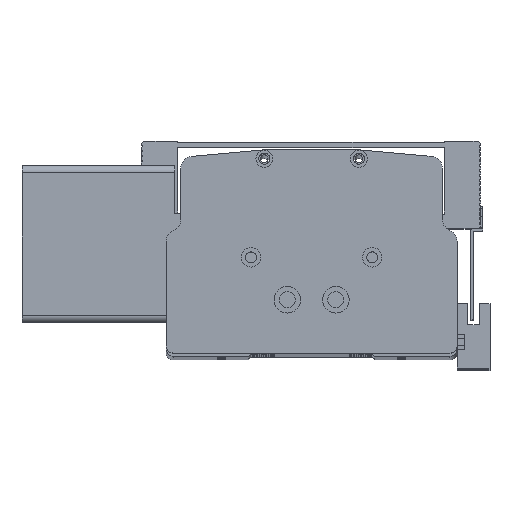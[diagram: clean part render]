
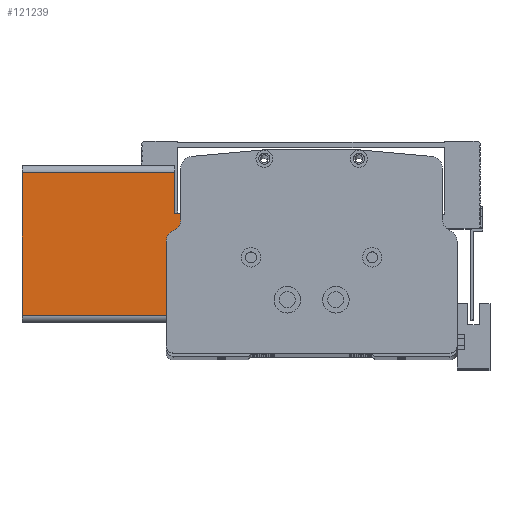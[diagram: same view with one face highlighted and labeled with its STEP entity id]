
A CAD part, top view. The second image highlights one B-rep face of the part: STEP entity #121239.
In plain terms, the highlighted planar face has unit normal (0, 0, 1) as drawn and (-1, 0, 0) by its records, which use the part's own axes.
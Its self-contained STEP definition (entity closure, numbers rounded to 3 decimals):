
#368 = VERTEX_POINT ( 'NONE', #126135 ) ;
#937 = FACE_OUTER_BOUND ( 'NONE', #68918, .T. ) ;
#1105 = LINE ( 'NONE', #129651, #79845 ) ;
#6021 = VECTOR ( 'NONE', #87211, 1000. ) ;
#7749 = ORIENTED_EDGE ( 'NONE', *, *, #45508, .T. ) ;
#9395 = LINE ( 'NONE', #76447, #6021 ) ;
#11642 = CARTESIAN_POINT ( 'NONE',  ( 0., 3., 87. ) ) ;
#11682 = CARTESIAN_POINT ( 'NONE',  ( 0., 62., 0. ) ) ;
#13507 = ORIENTED_EDGE ( 'NONE', *, *, #107437, .F. ) ;
#21663 = CARTESIAN_POINT ( 'NONE',  ( 0., 62., 73. ) ) ;
#22349 = DIRECTION ( 'NONE',  ( 0., 0., 1. ) ) ;
#22649 = EDGE_CURVE ( 'NONE', #72501, #51465, #44566, .T. ) ;
#24605 = VECTOR ( 'NONE', #137830, 1000. ) ;
#32202 = VERTEX_POINT ( 'NONE', #45606 ) ;
#33470 = EDGE_CURVE ( 'NONE', #368, #102801, #84163, .T. ) ;
#36145 = LINE ( 'NONE', #109116, #61250 ) ;
#37151 = VECTOR ( 'NONE', #22349, 1000. ) ;
#37805 = CARTESIAN_POINT ( 'NONE',  ( 0., 3., 87. ) ) ;
#39309 = PLANE ( 'NONE',  #103838 ) ;
#40249 = CARTESIAN_POINT ( 'NONE',  ( 0., 0., 87. ) ) ;
#42488 = ORIENTED_EDGE ( 'NONE', *, *, #33470, .F. ) ;
#43862 = LINE ( 'NONE', #11642, #37151 ) ;
#44566 = LINE ( 'NONE', #80339, #126661 ) ;
#45508 = EDGE_CURVE ( 'NONE', #104263, #51465, #43862, .T. ) ;
#45606 = CARTESIAN_POINT ( 'NONE',  ( 0., 62., 63. ) ) ;
#50918 = DIRECTION ( 'NONE',  ( 0., 0., -1. ) ) ;
#51465 = VERTEX_POINT ( 'NONE', #37805 ) ;
#52086 = VERTEX_POINT ( 'NONE', #11682 ) ;
#60883 = CARTESIAN_POINT ( 'NONE',  ( 0., 62., 87. ) ) ;
#60898 = EDGE_CURVE ( 'NONE', #32202, #52086, #98865, .T. ) ;
#61250 = VECTOR ( 'NONE', #119836, 1000. ) ;
#62241 = CARTESIAN_POINT ( 'NONE',  ( 0., 62., 87. ) ) ;
#62949 = CARTESIAN_POINT ( 'NONE',  ( 0., 80.26, 63. ) ) ;
#63794 = ORIENTED_EDGE ( 'NONE', *, *, #22649, .F. ) ;
#65759 = ORIENTED_EDGE ( 'NONE', *, *, #122559, .T. ) ;
#68918 = EDGE_LOOP ( 'NONE', ( #13507, #104410, #104824, #127503, #7749, #63794, #65759, #42488 ) ) ;
#71697 = DIRECTION ( 'NONE',  ( 0., 0., -1. ) ) ;
#72501 = VERTEX_POINT ( 'NONE', #62241 ) ;
#73949 = CARTESIAN_POINT ( 'NONE',  ( 0., 45., 63. ) ) ;
#76447 = CARTESIAN_POINT ( 'NONE',  ( 0., 45., 63. ) ) ;
#79845 = VECTOR ( 'NONE', #87098, 1000. ) ;
#80339 = CARTESIAN_POINT ( 'NONE',  ( 0., 0., 87. ) ) ;
#84163 = LINE ( 'NONE', #102930, #109218 ) ;
#87098 = DIRECTION ( 'NONE',  ( 0., 0., -1. ) ) ;
#87211 = DIRECTION ( 'NONE',  ( 0., 0., 1. ) ) ;
#96560 = LINE ( 'NONE', #62949, #24605 ) ;
#98865 = LINE ( 'NONE', #60883, #124008 ) ;
#99616 = DIRECTION ( 'NONE',  ( 0., 1., 0. ) ) ;
#101838 = DIRECTION ( 'NONE',  ( 0., -1., 0. ) ) ;
#102801 = VERTEX_POINT ( 'NONE', #21663 ) ;
#102930 = CARTESIAN_POINT ( 'NONE',  ( 0., 80.26, 73. ) ) ;
#103838 = AXIS2_PLACEMENT_3D ( 'NONE', #40249, #115112, #50918 ) ;
#104263 = VERTEX_POINT ( 'NONE', #128789 ) ;
#104410 = ORIENTED_EDGE ( 'NONE', *, *, #121912, .F. ) ;
#104824 = ORIENTED_EDGE ( 'NONE', *, *, #60898, .T. ) ;
#107437 = EDGE_CURVE ( 'NONE', #133075, #368, #9395, .T. ) ;
#109116 = CARTESIAN_POINT ( 'NONE',  ( 0., 0., 0. ) ) ;
#109218 = VECTOR ( 'NONE', #99616, 1000. ) ;
#115112 = DIRECTION ( 'NONE',  ( 1., 0., 0. ) ) ;
#119836 = DIRECTION ( 'NONE',  ( 0., -1., 0. ) ) ;
#121239 = ADVANCED_FACE ( 'NONE', ( #937 ), #39309, .F. ) ;
#121912 = EDGE_CURVE ( 'NONE', #32202, #133075, #96560, .T. ) ;
#122559 = EDGE_CURVE ( 'NONE', #72501, #102801, #1105, .T. ) ;
#124008 = VECTOR ( 'NONE', #71697, 1000. ) ;
#126135 = CARTESIAN_POINT ( 'NONE',  ( 0., 45., 73. ) ) ;
#126661 = VECTOR ( 'NONE', #101838, 1000. ) ;
#127503 = ORIENTED_EDGE ( 'NONE', *, *, #129789, .T. ) ;
#128789 = CARTESIAN_POINT ( 'NONE',  ( 0., 3., 0. ) ) ;
#129651 = CARTESIAN_POINT ( 'NONE',  ( 0., 62., 87. ) ) ;
#129789 = EDGE_CURVE ( 'NONE', #52086, #104263, #36145, .T. ) ;
#133075 = VERTEX_POINT ( 'NONE', #73949 ) ;
#137830 = DIRECTION ( 'NONE',  ( 0., -1., 0. ) ) ;
